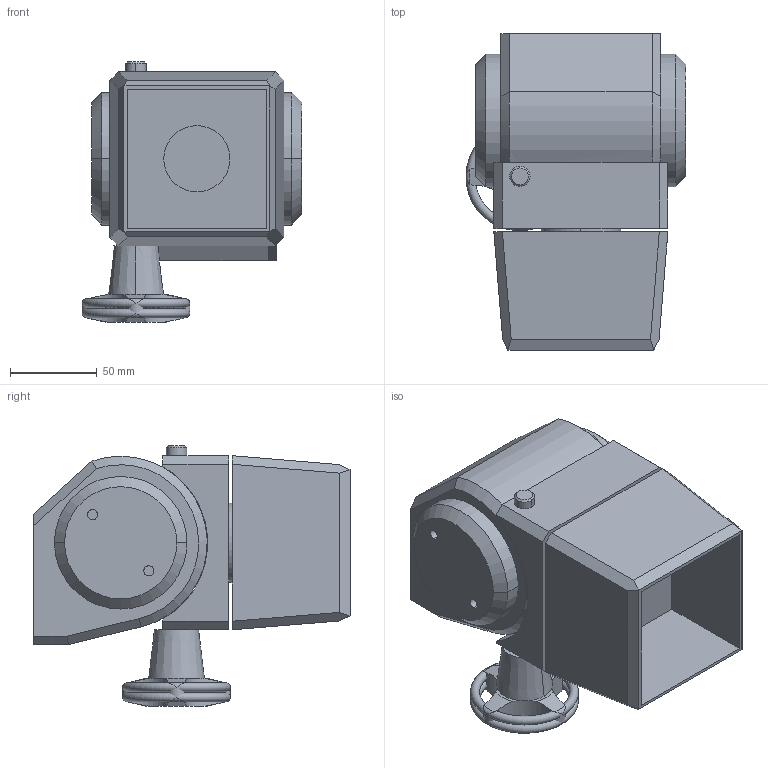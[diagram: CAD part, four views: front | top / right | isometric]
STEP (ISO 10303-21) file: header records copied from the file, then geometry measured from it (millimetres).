
FILE_DESCRIPTION((''),'1');
FILE_NAME('3','2001-04-17T',('jlue'),(''),'PRO/ENGINEER BY PARAMETRIC TECHNOLOGY CORPORATION, 9846','PRO/ENGINEER BY PARAMETRIC TECHNOLOGY CORPORATION, 9846','');
FILE_SCHEMA(('CONFIG_CONTROL_DESIGN'));
Length unit declared in the file: inch
Products named in the file (1): 3
Bounding box: 126.5 x 182.12 x 149.73 mm (x, y, z)
Surface area: 177300.6 mm2 (no closed solid volume)
Topology: 0 solids, 0 shells, 142 faces, 724 edges, 728 vertices
Faces by surface type: plane 68, cylinder 48, cone 18, torus 8
Entity records: 4062 total; most frequent: CARTESIAN_POINT 1055, DIRECTION 711, COMPOSITE_CURVE_SEGMENT 696, TRIMMED_CURVE 299, AXIS2_PLACEMENT_3D 270, VECTOR 171, LINE 171, CURVE_BOUNDED_SURFACE 142
